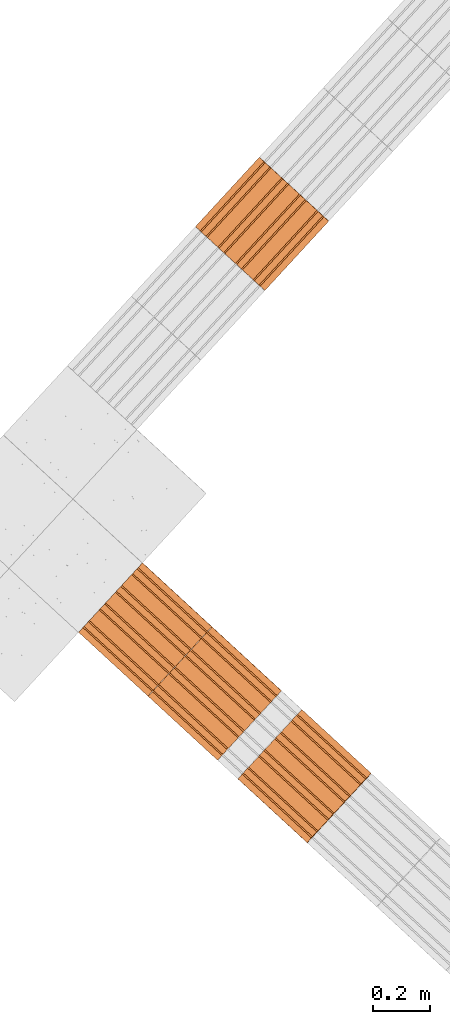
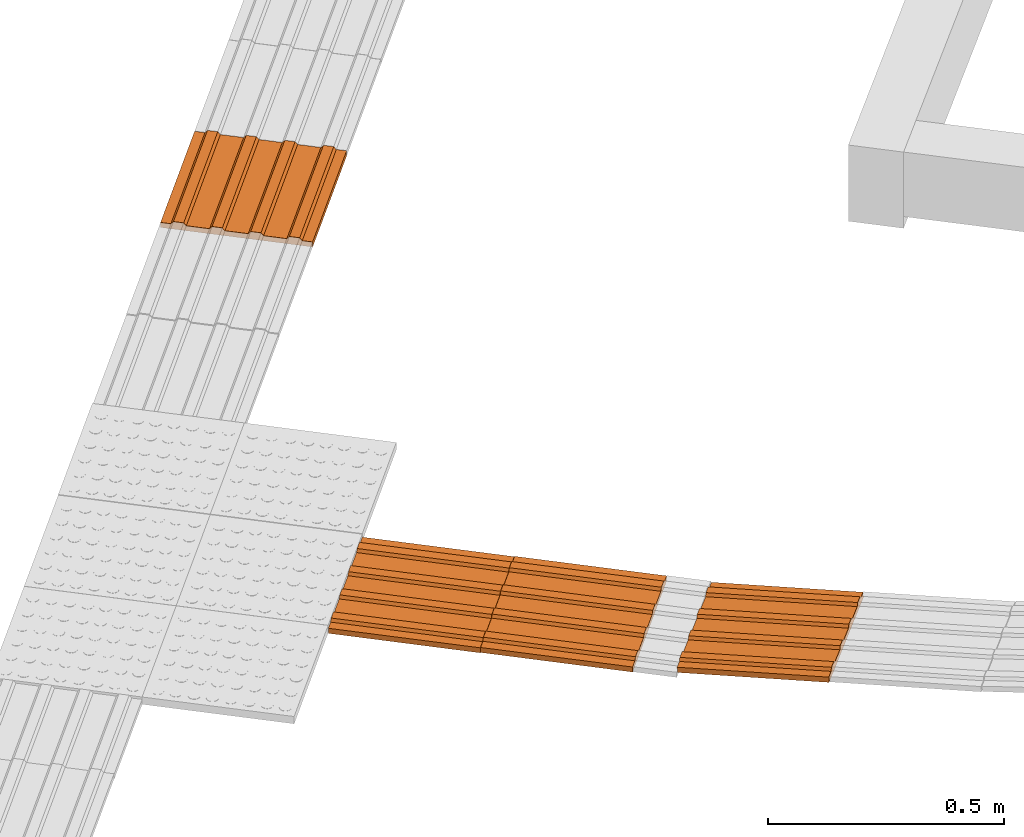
# One storey, part 168 of 237: 4 proxies.
"""IFC2X3 building model written with IfcOpenShell, lengths in millimetres."""

from ifc_helpers import new_model, entity, si_unit, converted_unit, derived_unit, money_unit, direction, frame, origin_with_axes, place, context, subcontext, project, spatial, open_shell, surface_model, source, transform, mapped, type_object, element, save


model = new_model("IFC2X3")

# Units and contexts
model_context = context("Model", 3, precision=0.01, world=origin_with_axes(), true_north=direction((0.0, 1.0)))
body_context = subcontext(model_context, "Body", "Model", "MODEL_VIEW")
ifc_project = project(units=[si_unit("LENGTHUNIT", "METRE", prefix="MILLI"), si_unit("AREAUNIT", "SQUARE_METRE"), si_unit("VOLUMEUNIT", "CUBIC_METRE"), converted_unit("PLANEANGLEUNIT", "DEGREE", entity("IfcPlaneAngleMeasure", 0.0174532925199), si_unit("PLANEANGLEUNIT", "RADIAN"), dimensions=[0, 0, 0, 0, 0, 0, 0]), money_unit("USD"), converted_unit("TIMEUNIT", "Year", entity("IfcTimeMeasure", 31556926.0), si_unit("TIMEUNIT", "SECOND"), dimensions=[0, 0, 1, 0, 0, 0, 0]), si_unit("MASSUNIT", "GRAM", prefix="KILO"), si_unit("THERMODYNAMICTEMPERATUREUNIT", "DEGREE_CELSIUS"), si_unit("LUMINOUSINTENSITYUNIT", "LUMEN"), si_unit("ENERGYUNIT", "JOULE", prefix="MEGA"), derived_unit("THERMALCONDUCTANCEUNIT", [(si_unit("POWERUNIT", "WATT"), 1), (si_unit("LENGTHUNIT", "METRE"), -1), (si_unit("THERMODYNAMICTEMPERATUREUNIT", "KELVIN"), -1)]), derived_unit("SPECIFICHEATCAPACITYUNIT", [(si_unit("ENERGYUNIT", "JOULE"), 1), (si_unit("MASSUNIT", "GRAM", prefix="KILO"), -1), (si_unit("THERMODYNAMICTEMPERATUREUNIT", "KELVIN"), -1)]), derived_unit("MASSDENSITYUNIT", [(si_unit("MASSUNIT", "GRAM", prefix="KILO"), 1), (si_unit("VOLUMEUNIT", "CUBIC_METRE"), -1)])], contexts=[model_context])

# Site, building, storey
site_placement = place(None, origin_with_axes())
site = spatial("IfcSite", under=ifc_project, at=site_placement, Name="Local", CompositionType="ELEMENT")
building_placement = place(site_placement, origin_with_axes())
building = spatial("IfcBuilding", under=site, at=building_placement, Name="Construção", CompositionType="ELEMENT")
storey_placement = place(building_placement, origin_with_axes())
storey = spatial("IfcBuildingStorey", under=building, at=storey_placement, Name="Pavimento Térreo", CompositionType="ELEMENT", Elevation=0.0)

# Proxies
building_element_proxy_type = type_object("IfcBuildingElementProxyType", Name="Piso Direcional 27", PredefinedType="NOTDEFINED")
shared_shape_1 = source(origin_with_axes(), body_context, "Body", "SurfaceModel", [
    surface_model("IfcShellBasedSurfaceModel", [(0.126538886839, -47.258225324, 4.02653266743), (329.963703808, -47.258225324, -6.33901782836), (330.173108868, -41.665004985, 0.32435924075), (0.33594394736, -41.665004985, 10.6899097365)], [open_shell([[[0, 1, 2, 3]]])]),
    surface_model("IfcShellBasedSurfaceModel", [(329.544893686, -153.529411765, -19.6657719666), (329.544893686, 176.470588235, -19.6657719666), (329.963703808, 176.470588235, -6.33901782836), (329.963703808, 154.097706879, -6.33901782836), (330.173108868, 148.50448654, 0.32435924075), (330.173108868, 126.131605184, 0.32435924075), (329.963703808, 120.538384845, -6.33901782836), (329.963703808, 70.1994017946, -6.33901782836), (330.173108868, 64.6061814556, 0.32435924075), (330.173108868, 42.2333000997, 0.32435924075), (329.963703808, 36.6400797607, -6.33901782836), (329.963703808, -13.6989032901, -6.33901782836), (330.173108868, -19.2921236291, 0.32435924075), (330.173108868, -41.665004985, 0.32435924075), (329.963703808, -47.258225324, -6.33901782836), (329.963703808, -97.5972083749, -6.33901782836), (330.173108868, -103.190428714, 0.32435924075), (330.173108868, -125.56331007, 0.32435924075), (329.963703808, -131.156530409, -6.33901782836), (329.963703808, -153.529411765, -6.33901782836)], [open_shell([[[0, 1, 2, 3, 4, 5, 6, 7, 8, 9, 10, 11, 12, 13, 14, 15, 16, 17, 18, 19]]])]),
    surface_model("IfcShellBasedSurfaceModel", [(0.33594394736, -19.2921236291, 10.6899097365), (330.173108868, -19.2921236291, 0.32435924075), (329.963703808, -13.6989032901, -6.33901782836), (0.126538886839, -13.6989032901, 4.02653266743)], [open_shell([[[0, 1, 2, 3]]])]),
    surface_model("IfcShellBasedSurfaceModel", [(0.33594394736, -103.190428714, 10.6899097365), (330.173108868, -103.190428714, 0.32435924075), (329.963703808, -97.5972083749, -6.33901782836), (0.126538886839, -97.5972083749, 4.02653266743)], [open_shell([[[0, 1, 2, 3]]])]),
    surface_model("IfcShellBasedSurfaceModel", [(0.33594394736, 64.6061814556, 10.6899097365), (330.173108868, 64.6061814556, 0.32435924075), (329.963703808, 70.1994017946, -6.33901782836), (0.126538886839, 70.1994017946, 4.02653266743)], [open_shell([[[0, 1, 2, 3]]])]),
    surface_model("IfcShellBasedSurfaceModel", [(0.126538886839, 36.6400797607, 4.02653266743), (329.963703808, 36.6400797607, -6.33901782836), (330.173108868, 42.2333000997, 0.32435924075), (0.33594394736, 42.2333000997, 10.6899097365)], [open_shell([[[0, 1, 2, 3]]])]),
    surface_model("IfcShellBasedSurfaceModel", [(0.126538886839, -131.156530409, 4.02653266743), (329.963703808, -131.156530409, -6.33901782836), (330.173108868, -125.56331007, 0.32435924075), (0.33594394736, -125.56331007, 10.6899097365)], [open_shell([[[0, 1, 2, 3]]])]),
    surface_model("IfcShellBasedSurfaceModel", [(0.126538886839, 176.470588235, 4.02653266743), (0.126538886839, 154.097706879, 4.02653266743), (329.963703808, 154.097706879, -6.33901782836), (329.963703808, 176.470588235, -6.33901782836)], [open_shell([[[0, 1, 2, 3]]])]),
    surface_model("IfcShellBasedSurfaceModel", [(0.126538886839, 120.538384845, 4.02653266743), (329.963703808, 120.538384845, -6.33901782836), (330.173108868, 126.131605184, 0.32435924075), (0.33594394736, 126.131605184, 10.6899097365)], [open_shell([[[0, 1, 2, 3]]])]),
    surface_model("IfcShellBasedSurfaceModel", [(0.33594394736, 148.50448654, 10.6899097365), (330.173108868, 148.50448654, 0.32435924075), (329.963703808, 154.097706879, -6.33901782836), (0.126538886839, 154.097706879, 4.02653266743)], [open_shell([[[0, 1, 2, 3]]])]),
    surface_model("IfcShellBasedSurfaceModel", [(0.126538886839, 36.6400797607, 4.02653266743), (0.126538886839, -13.6989032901, 4.02653266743), (329.963703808, -13.6989032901, -6.33901782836), (329.963703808, 36.6400797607, -6.33901782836)], [open_shell([[[0, 1, 2, 3]]])]),
    surface_model("IfcShellBasedSurfaceModel", [(0.126538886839, 120.538384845, 4.02653266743), (0.126538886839, 70.1994017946, 4.02653266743), (329.963703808, 70.1994017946, -6.33901782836), (329.963703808, 120.538384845, -6.33901782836)], [open_shell([[[0, 1, 2, 3]]])]),
    surface_model("IfcShellBasedSurfaceModel", [(0.33594394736, 148.50448654, 10.6899097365), (0.33594394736, 126.131605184, 10.6899097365), (330.173108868, 126.131605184, 0.32435924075), (330.173108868, 148.50448654, 0.32435924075)], [open_shell([[[0, 1, 2, 3]]])]),
    surface_model("IfcShellBasedSurfaceModel", [(0.126538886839, 120.538384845, 4.02653266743), (0.33594394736, 126.131605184, 10.6899097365), (0.33594394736, 148.50448654, 10.6899097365), (0.126538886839, 154.097706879, 4.02653266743), (0.126538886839, 176.470588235, 4.02653266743), (-0.292271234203, 176.470588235, -9.30022147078), (-0.292271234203, -153.529411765, -9.30022147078), (0.126538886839, -153.529411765, 4.02653266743), (0.126538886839, -131.156530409, 4.02653266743), (0.33594394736, -125.56331007, 10.6899097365), (0.33594394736, -103.190428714, 10.6899097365), (0.126538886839, -97.5972083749, 4.02653266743), (0.126538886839, -47.258225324, 4.02653266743), (0.33594394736, -41.665004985, 10.6899097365), (0.33594394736, -19.2921236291, 10.6899097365), (0.126538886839, -13.6989032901, 4.02653266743), (0.126538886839, 36.6400797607, 4.02653266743), (0.33594394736, 42.2333000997, 10.6899097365), (0.33594394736, 64.6061814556, 10.6899097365), (0.126538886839, 70.1994017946, 4.02653266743)], [open_shell([[[0, 1, 2, 3, 4, 5, 6, 7, 8, 9, 10, 11, 12, 13, 14, 15, 16, 17, 18, 19]]])]),
    surface_model("IfcShellBasedSurfaceModel", [(330.173108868, -41.665004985, 0.32435924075), (330.173108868, -19.2921236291, 0.32435924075), (0.33594394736, -19.2921236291, 10.6899097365), (0.33594394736, -41.665004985, 10.6899097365)], [open_shell([[[0, 1, 2, 3]]])]),
    surface_model("IfcShellBasedSurfaceModel", [(0.126538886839, -47.258225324, 4.02653266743), (0.126538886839, -97.5972083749, 4.02653266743), (329.963703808, -97.5972083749, -6.33901782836), (329.963703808, -47.258225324, -6.33901782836)], [open_shell([[[0, 1, 2, 3]]])]),
    surface_model("IfcShellBasedSurfaceModel", [(330.173108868, 42.2333000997, 0.32435924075), (330.173108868, 64.6061814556, 0.32435924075), (0.33594394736, 64.6061814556, 10.6899097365), (0.33594394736, 42.2333000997, 10.6899097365)], [open_shell([[[0, 1, 2, 3]]])]),
    surface_model("IfcShellBasedSurfaceModel", [(330.173108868, -125.56331007, 0.32435924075), (330.173108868, -103.190428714, 0.32435924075), (0.33594394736, -103.190428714, 10.6899097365), (0.33594394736, -125.56331007, 10.6899097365)], [open_shell([[[0, 1, 2, 3]]])]),
    surface_model("IfcShellBasedSurfaceModel", [(329.544893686, 176.470588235, -19.6657719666), (-0.292271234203, 176.470588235, -9.30022147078), (0.126538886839, 176.470588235, 4.02653266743), (329.963703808, 176.470588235, -6.33901782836)], [open_shell([[[0, 1, 2, 3]]])]),
    surface_model("IfcShellBasedSurfaceModel", [(329.544893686, -153.529411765, -19.6657719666), (-0.292271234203, -153.529411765, -9.30022147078), (-0.292271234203, 176.470588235, -9.30022147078), (329.544893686, 176.470588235, -19.6657719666)], [open_shell([[[0, 1, 2, 3]]])]),
    surface_model("IfcShellBasedSurfaceModel", [(329.963703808, -153.529411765, -6.33901782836), (329.963703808, -131.156530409, -6.33901782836), (0.126538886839, -131.156530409, 4.02653266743), (0.126538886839, -153.529411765, 4.02653266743)], [open_shell([[[0, 1, 2, 3]]])]),
    surface_model("IfcShellBasedSurfaceModel", [(-0.292271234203, -153.529411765, -9.30022147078), (329.544893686, -153.529411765, -19.6657719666), (329.963703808, -153.529411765, -6.33901782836), (0.126538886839, -153.529411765, 4.02653266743)], [open_shell([[[0, 1, 2, 3]]])]),
])
proxy_1_placement = place(storey_placement, frame((40697.2076398, 28349.7944407, -1706.11646729), z_axis=(0.0, 0.0, 1.0), x_axis=(-0.677327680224, -0.735681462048, 0.0)))
element("IfcBuildingElementProxy", 1, at=proxy_1_placement, inside=storey, type_object=building_element_proxy_type, Name="Objeto-0055", context=body_context, shape_type="MappedRepresentation", body=[
    mapped(shared_shape_1, transform((0.0, 0.0, 0.0))),
])
shared_shape_2 = source(origin_with_axes(), body_context, "Body", "SurfaceModel", [
    surface_model("IfcShellBasedSurfaceModel", [(0.0, -47.1083673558, 5.51094939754), (330.0, -47.1083673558, 5.51094939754), (330.0, -41.3085018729, 11.9986391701), (0.0, -41.3085018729, 11.9986391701)], [open_shell([[[0, 1, 2, 3]]])]),
    surface_model("IfcShellBasedSurfaceModel", [(330.0, -153.745925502, -4.47774610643), (330.0, 176.091239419, -14.8432966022), (330.0, 176.51004954, -1.51654246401), (330.0, 154.14820785, -0.813793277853), (330.0, 148.767152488, 6.02527108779), (330.0, 126.405310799, 6.72802027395), (330.0, 120.605445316, 0.240330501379), (330.0, 70.2913015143, 1.82151617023), (330.0, 64.9102461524, 8.66058053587), (330.0, 42.5484044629, 9.36332972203), (330.0, 36.74853898, 2.87563994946), (330.0, -13.5656048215, 4.45682561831), (330.0, -18.9466601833, 11.295889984), (330.0, -41.3085018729, 11.9986391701), (330.0, -47.1083673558, 5.51094939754), (330.0, -97.4225111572, 7.09213506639), (330.0, -102.803566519, 13.931199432), (330.0, -125.165408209, 14.6339486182), (330.0, -130.965273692, 8.14625884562), (330.0, -153.327115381, 8.84900803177)], [open_shell([[[0, 1, 2, 3, 4, 5, 6, 7, 8, 9, 10, 11, 12, 13, 14, 15, 16, 17, 18, 19]]])]),
    surface_model("IfcShellBasedSurfaceModel", [(0.0, -18.9466601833, 11.295889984), (330.0, -18.9466601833, 11.295889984), (330.0, -13.5656048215, 4.45682561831), (0.0, -13.5656048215, 4.45682561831)], [open_shell([[[0, 1, 2, 3]]])]),
    surface_model("IfcShellBasedSurfaceModel", [(0.0, -102.803566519, 13.931199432), (330.0, -102.803566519, 13.931199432), (330.0, -97.4225111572, 7.09213506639), (0.0, -97.4225111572, 7.09213506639)], [open_shell([[[0, 1, 2, 3]]])]),
    surface_model("IfcShellBasedSurfaceModel", [(0.0, 64.9102461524, 8.66058053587), (330.0, 64.9102461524, 8.66058053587), (330.0, 70.2913015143, 1.82151617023), (0.0, 70.2913015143, 1.82151617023)], [open_shell([[[0, 1, 2, 3]]])]),
    surface_model("IfcShellBasedSurfaceModel", [(0.0, 36.74853898, 2.87563994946), (330.0, 36.74853898, 2.87563994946), (330.0, 42.5484044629, 9.36332972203), (0.0, 42.5484044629, 9.36332972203)], [open_shell([[[0, 1, 2, 3]]])]),
    surface_model("IfcShellBasedSurfaceModel", [(0.0, -130.965273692, 8.14625884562), (330.0, -130.965273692, 8.14625884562), (330.0, -125.165408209, 14.6339486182), (0.0, -125.165408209, 14.6339486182)], [open_shell([[[0, 1, 2, 3]]])]),
    surface_model("IfcShellBasedSurfaceModel", [(0.0, 176.51004954, -1.51654246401), (0.0, 154.14820785, -0.813793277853), (330.0, 154.14820785, -0.813793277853), (330.0, 176.51004954, -1.51654246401)], [open_shell([[[0, 1, 2, 3]]])]),
    surface_model("IfcShellBasedSurfaceModel", [(0.0, 120.605445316, 0.240330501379), (330.0, 120.605445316, 0.240330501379), (330.0, 126.405310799, 6.72802027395), (0.0, 126.405310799, 6.72802027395)], [open_shell([[[0, 1, 2, 3]]])]),
    surface_model("IfcShellBasedSurfaceModel", [(0.0, 148.767152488, 6.02527108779), (330.0, 148.767152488, 6.02527108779), (330.0, 154.14820785, -0.813793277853), (0.0, 154.14820785, -0.813793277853)], [open_shell([[[0, 1, 2, 3]]])]),
    surface_model("IfcShellBasedSurfaceModel", [(0.0, 36.74853898, 2.87563994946), (0.0, -13.5656048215, 4.45682561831), (330.0, -13.5656048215, 4.45682561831), (330.0, 36.74853898, 2.87563994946)], [open_shell([[[0, 1, 2, 3]]])]),
    surface_model("IfcShellBasedSurfaceModel", [(0.0, 120.605445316, 0.240330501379), (0.0, 70.2913015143, 1.82151617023), (330.0, 70.2913015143, 1.82151617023), (330.0, 120.605445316, 0.240330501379)], [open_shell([[[0, 1, 2, 3]]])]),
    surface_model("IfcShellBasedSurfaceModel", [(0.0, 148.767152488, 6.02527108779), (0.0, 126.405310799, 6.72802027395), (330.0, 126.405310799, 6.72802027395), (330.0, 148.767152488, 6.02527108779)], [open_shell([[[0, 1, 2, 3]]])]),
    surface_model("IfcShellBasedSurfaceModel", [(0.0, 120.605445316, 0.240330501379), (0.0, 126.405310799, 6.72802027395), (0.0, 148.767152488, 6.02527108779), (0.0, 154.14820785, -0.813793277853), (0.0, 176.51004954, -1.51654246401), (0.0, 176.091239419, -14.8432966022), (0.0, -153.745925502, -4.47774610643), (0.0, -153.327115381, 8.84900803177), (0.0, -130.965273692, 8.14625884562), (0.0, -125.165408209, 14.6339486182), (0.0, -102.803566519, 13.931199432), (0.0, -97.4225111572, 7.09213506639), (0.0, -47.1083673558, 5.51094939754), (0.0, -41.3085018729, 11.9986391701), (0.0, -18.9466601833, 11.295889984), (0.0, -13.5656048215, 4.45682561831), (0.0, 36.74853898, 2.87563994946), (0.0, 42.5484044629, 9.36332972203), (0.0, 64.9102461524, 8.66058053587), (0.0, 70.2913015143, 1.82151617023)], [open_shell([[[0, 1, 2, 3, 4, 5, 6, 7, 8, 9, 10, 11, 12, 13, 14, 15, 16, 17, 18, 19]]])]),
    surface_model("IfcShellBasedSurfaceModel", [(330.0, -41.3085018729, 11.9986391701), (330.0, -18.9466601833, 11.295889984), (0.0, -18.9466601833, 11.295889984), (0.0, -41.3085018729, 11.9986391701)], [open_shell([[[0, 1, 2, 3]]])]),
    surface_model("IfcShellBasedSurfaceModel", [(0.0, -47.1083673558, 5.51094939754), (0.0, -97.4225111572, 7.09213506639), (330.0, -97.4225111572, 7.09213506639), (330.0, -47.1083673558, 5.51094939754)], [open_shell([[[0, 1, 2, 3]]])]),
    surface_model("IfcShellBasedSurfaceModel", [(330.0, 42.5484044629, 9.36332972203), (330.0, 64.9102461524, 8.66058053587), (0.0, 64.9102461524, 8.66058053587), (0.0, 42.5484044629, 9.36332972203)], [open_shell([[[0, 1, 2, 3]]])]),
    surface_model("IfcShellBasedSurfaceModel", [(330.0, -125.165408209, 14.6339486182), (330.0, -102.803566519, 13.931199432), (0.0, -102.803566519, 13.931199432), (0.0, -125.165408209, 14.6339486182)], [open_shell([[[0, 1, 2, 3]]])]),
    surface_model("IfcShellBasedSurfaceModel", [(330.0, 176.091239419, -14.8432966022), (0.0, 176.091239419, -14.8432966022), (0.0, 176.51004954, -1.51654246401), (330.0, 176.51004954, -1.51654246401)], [open_shell([[[0, 1, 2, 3]]])]),
    surface_model("IfcShellBasedSurfaceModel", [(330.0, -153.745925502, -4.47774610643), (0.0, -153.745925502, -4.47774610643), (0.0, 176.091239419, -14.8432966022), (330.0, 176.091239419, -14.8432966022)], [open_shell([[[0, 1, 2, 3]]])]),
    surface_model("IfcShellBasedSurfaceModel", [(330.0, -153.327115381, 8.84900803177), (330.0, -130.965273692, 8.14625884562), (0.0, -130.965273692, 8.14625884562), (0.0, -153.327115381, 8.84900803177)], [open_shell([[[0, 1, 2, 3]]])]),
    surface_model("IfcShellBasedSurfaceModel", [(0.0, -153.745925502, -4.47774610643), (330.0, -153.745925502, -4.47774610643), (330.0, -153.327115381, 8.84900803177), (0.0, -153.327115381, 8.84900803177)], [open_shell([[[0, 1, 2, 3]]])]),
])
for number, where, z_axis, x_axis, name in (
    (2, (40314.2666026, 26698.8847385, -1757.16373435), (0.0, 0.0, 1.0), (-0.735681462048, 0.677327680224, 0.0), "Objeto-0055"),
    (3, (40557.5685424, 26474.8947359, -1756.15741035), (0.0, 0.0, 1.0), (-0.735681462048, 0.677327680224, 0.0), "Objeto-0055"),
):
    element("IfcBuildingElementProxy", number, at=place(storey_placement, frame(where, z_axis=z_axis, x_axis=x_axis)), inside=storey, type_object=building_element_proxy_type, Name=name, context=body_context, shape_type="MappedRepresentation", body=[
        mapped(shared_shape_2, transform((0.0, 0.0, 0.0))),
    ])
shared_shape_3 = source(origin_with_axes(), body_context, "Body", "SurfaceModel", [
    surface_model("IfcShellBasedSurfaceModel", [(0.240167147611, -47.3213350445, 3.1941207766), (329.311261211, -47.3213350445, -21.5488590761), (329.818362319, -41.8453159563, -14.8046303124), (0.747268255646, -41.8453159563, 9.93834954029)], [open_shell([[[0, 1, 2, 3]]])]),
    surface_model("IfcShellBasedSurfaceModel", [(328.172634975, -153.343637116, -36.6921030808), (328.604459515, 176.606102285, -30.9490206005), (329.604023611, 176.373403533, -17.6552438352), (329.574747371, 154.003929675, -18.0446053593), (330.067210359, 148.295211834, -11.4950573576), (330.037934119, 125.925737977, -11.8844188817), (329.530833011, 120.449718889, -18.6286476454), (329.464961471, 70.1184027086, -19.5047110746), (329.957424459, 64.4096848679, -12.955163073), (329.928148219, 42.0402110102, -13.3445245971), (329.421047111, 36.564191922, -20.0887533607), (329.355175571, -13.7671242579, -20.9648167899), (329.847638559, -19.4758420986, -14.4152687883), (329.818362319, -41.8453159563, -14.8046303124), (329.311261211, -47.3213350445, -21.5488590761), (329.245389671, -97.6526512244, -22.4249225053), (329.737852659, -103.361369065, -15.8753745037), (329.708576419, -125.730842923, -16.2647360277), (329.201475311, -131.206862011, -23.0089647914), (329.172199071, -153.576335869, -23.3983263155)], [open_shell([[[0, 1, 2, 3, 4, 5, 6, 7, 8, 9, 10, 11, 12, 13, 14, 15, 16, 17, 18, 19]]])]),
    surface_model("IfcShellBasedSurfaceModel", [(0.776544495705, -19.4758420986, 10.3277110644), (329.847638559, -19.4758420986, -14.4152687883), (329.355175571, -13.7671242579, -20.9648167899), (0.284081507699, -13.7671242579, 3.77816306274)], [open_shell([[[0, 1, 2, 3]]])]),
    surface_model("IfcShellBasedSurfaceModel", [(0.666758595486, -103.361369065, 8.86760534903), (329.737852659, -103.361369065, -15.8753745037), (329.245389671, -97.6526512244, -22.4249225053), (0.17429560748, -97.6526512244, 2.3180573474)], [open_shell([[[0, 1, 2, 3]]])]),
    surface_model("IfcShellBasedSurfaceModel", [(0.886330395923, 64.4096848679, 11.7878167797), (329.957424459, 64.4096848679, -12.955163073), (329.464961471, 70.1184027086, -19.5047110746), (0.393867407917, 70.1184027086, 5.23826877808)], [open_shell([[[0, 1, 2, 3]]])]),
    surface_model("IfcShellBasedSurfaceModel", [(0.34995304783, 36.564191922, 4.65422649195), (329.421047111, 36.564191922, -20.0887533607), (329.928148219, 42.0402110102, -13.3445245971), (0.857054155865, 42.0402110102, 11.3984552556)], [open_shell([[[0, 1, 2, 3]]])]),
    surface_model("IfcShellBasedSurfaceModel", [(0.130381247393, -131.206862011, 1.73401506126), (329.201475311, -131.206862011, -23.0089647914), (329.708576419, -125.730842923, -16.2647360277), (0.637482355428, -125.730842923, 8.47824382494)], [open_shell([[[0, 1, 2, 3]]])]),
    surface_model("IfcShellBasedSurfaceModel", [(0.532929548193, 176.373403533, 7.08773601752), (0.503653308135, 154.003929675, 6.69837449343), (329.574747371, 154.003929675, -18.0446053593), (329.604023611, 176.373403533, -17.6552438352)], [open_shell([[[0, 1, 2, 3]]])]),
    surface_model("IfcShellBasedSurfaceModel", [(0.459738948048, 120.449718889, 6.11433220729), (329.530833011, 120.449718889, -18.6286476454), (330.037934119, 125.925737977, -11.8844188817), (0.966840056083, 125.925737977, 12.858560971)], [open_shell([[[0, 1, 2, 3]]])]),
    surface_model("IfcShellBasedSurfaceModel", [(0.996116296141, 148.295211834, 13.2479224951), (330.067210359, 148.295211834, -11.4950573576), (329.574747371, 154.003929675, -18.0446053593), (0.503653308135, 154.003929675, 6.69837449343)], [open_shell([[[0, 1, 2, 3]]])]),
    surface_model("IfcShellBasedSurfaceModel", [(0.34995304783, 36.564191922, 4.65422649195), (0.284081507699, -13.7671242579, 3.77816306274), (329.355175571, -13.7671242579, -20.9648167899), (329.421047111, 36.564191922, -20.0887533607)], [open_shell([[[0, 1, 2, 3]]])]),
    surface_model("IfcShellBasedSurfaceModel", [(0.459738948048, 120.449718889, 6.11433220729), (0.393867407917, 70.1184027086, 5.23826877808), (329.464961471, 70.1184027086, -19.5047110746), (329.530833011, 120.449718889, -18.6286476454)], [open_shell([[[0, 1, 2, 3]]])]),
    surface_model("IfcShellBasedSurfaceModel", [(0.996116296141, 148.295211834, 13.2479224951), (0.966840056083, 125.925737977, 12.858560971), (330.037934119, 125.925737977, -11.8844188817), (330.067210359, 148.295211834, -11.4950573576)], [open_shell([[[0, 1, 2, 3]]])]),
    surface_model("IfcShellBasedSurfaceModel", [(0.459738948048, 120.449718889, 6.11433220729), (0.966840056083, 125.925737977, 12.858560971), (0.996116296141, 148.295211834, 13.2479224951), (0.503653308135, 154.003929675, 6.69837449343), (0.532929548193, 176.373403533, 7.08773601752), (-0.466634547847, 176.606102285, -6.2060407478), (-0.898459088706, -153.343637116, -11.9491232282), (0.101105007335, -153.576335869, 1.34465353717), (0.130381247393, -131.206862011, 1.73401506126), (0.637482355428, -125.730842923, 8.47824382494), (0.666758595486, -103.361369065, 8.86760534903), (0.17429560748, -97.6526512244, 2.3180573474), (0.240167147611, -47.3213350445, 3.1941207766), (0.747268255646, -41.8453159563, 9.93834954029), (0.776544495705, -19.4758420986, 10.3277110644), (0.284081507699, -13.7671242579, 3.77816306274), (0.34995304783, 36.564191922, 4.65422649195), (0.857054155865, 42.0402110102, 11.3984552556), (0.886330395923, 64.4096848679, 11.7878167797), (0.393867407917, 70.1184027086, 5.23826877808)], [open_shell([[[0, 1, 2, 3, 4, 5, 6, 7, 8, 9, 10, 11, 12, 13, 14, 15, 16, 17, 18, 19]]])]),
    surface_model("IfcShellBasedSurfaceModel", [(329.818362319, -41.8453159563, -14.8046303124), (329.847638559, -19.4758420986, -14.4152687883), (0.776544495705, -19.4758420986, 10.3277110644), (0.747268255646, -41.8453159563, 9.93834954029)], [open_shell([[[0, 1, 2, 3]]])]),
    surface_model("IfcShellBasedSurfaceModel", [(0.240167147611, -47.3213350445, 3.1941207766), (0.17429560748, -97.6526512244, 2.3180573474), (329.245389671, -97.6526512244, -22.4249225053), (329.311261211, -47.3213350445, -21.5488590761)], [open_shell([[[0, 1, 2, 3]]])]),
    surface_model("IfcShellBasedSurfaceModel", [(329.928148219, 42.0402110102, -13.3445245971), (329.957424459, 64.4096848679, -12.955163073), (0.886330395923, 64.4096848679, 11.7878167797), (0.857054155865, 42.0402110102, 11.3984552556)], [open_shell([[[0, 1, 2, 3]]])]),
    surface_model("IfcShellBasedSurfaceModel", [(329.708576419, -125.730842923, -16.2647360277), (329.737852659, -103.361369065, -15.8753745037), (0.666758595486, -103.361369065, 8.86760534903), (0.637482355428, -125.730842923, 8.47824382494)], [open_shell([[[0, 1, 2, 3]]])]),
    surface_model("IfcShellBasedSurfaceModel", [(328.604459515, 176.606102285, -30.9490206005), (-0.466634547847, 176.606102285, -6.2060407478), (0.532929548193, 176.373403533, 7.08773601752), (329.604023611, 176.373403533, -17.6552438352)], [open_shell([[[0, 1, 2, 3]]])]),
    surface_model("IfcShellBasedSurfaceModel", [(328.172634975, -153.343637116, -36.6921030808), (-0.898459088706, -153.343637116, -11.9491232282), (-0.466634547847, 176.606102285, -6.2060407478), (328.604459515, 176.606102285, -30.9490206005)], [open_shell([[[0, 1, 2, 3]]])]),
    surface_model("IfcShellBasedSurfaceModel", [(329.172199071, -153.576335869, -23.3983263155), (329.201475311, -131.206862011, -23.0089647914), (0.130381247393, -131.206862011, 1.73401506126), (0.101105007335, -153.576335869, 1.34465353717)], [open_shell([[[0, 1, 2, 3]]])]),
    surface_model("IfcShellBasedSurfaceModel", [(-0.898459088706, -153.343637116, -11.9491232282), (328.172634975, -153.343637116, -36.6921030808), (329.172199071, -153.576335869, -23.3983263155), (0.101105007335, -153.576335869, 1.34465353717)], [open_shell([[[0, 1, 2, 3]]])]),
])
proxy_2_placement = place(storey_placement, frame((40871.1515821, 26186.2075, -1725.83173306), z_axis=(0.0, 0.0, 1.0), x_axis=(-0.735681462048, 0.677327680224, 0.0)))
element("IfcBuildingElementProxy", 4, at=proxy_2_placement, inside=storey, type_object=building_element_proxy_type, Name="Objeto-0055", context=body_context, shape_type="MappedRepresentation", body=[
    mapped(shared_shape_3, transform((0.0, 0.0, 0.0))),
])

save(model, "model.ifc")
